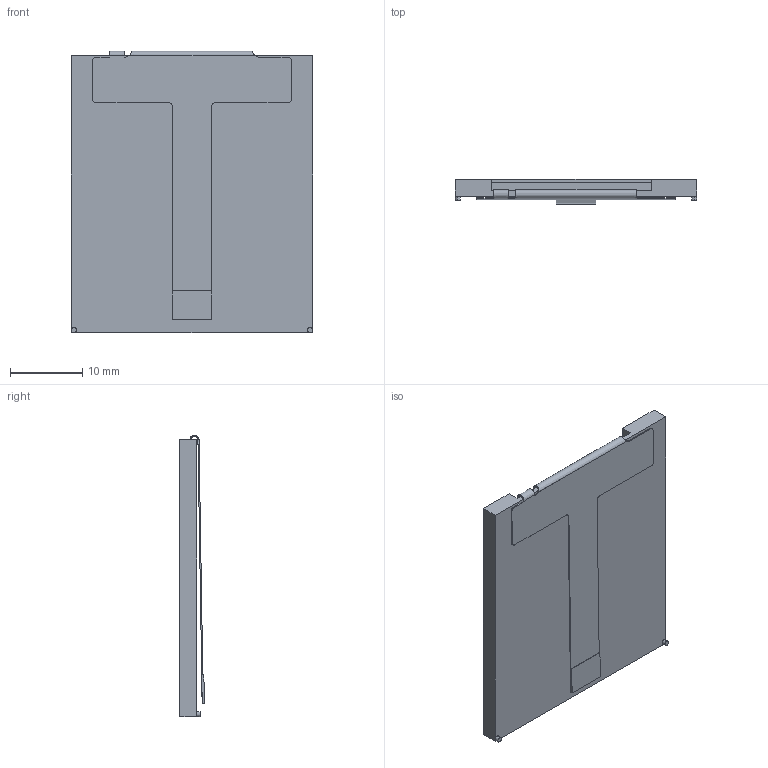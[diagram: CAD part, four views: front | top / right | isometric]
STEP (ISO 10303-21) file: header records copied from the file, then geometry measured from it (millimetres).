
FILE_DESCRIPTION (( 'STEP AP214' ), '1' );
FILE_NAME ('CFAF128128B1-0145T_Bent_Tail_Guideline.STEP', '2019-08-09T21:14:36', ( '' ), ( '' ), 'SwSTEP 2.0', 'SolidWorks 2015', '' );
FILE_SCHEMA (( 'AUTOMOTIVE_DESIGN' ));
Length unit declared in the file: millimetre
Products named in the file (1): CFAF128128B1-0145T_Bent_Tail_Guideline
Bounding box: 33.3 x 3.41 x 38.83 mm (x, y, z)
Volume: 2676.8 mm3; surface area: 3993.3 mm2
Topology: 2 solids, 2 shells, 139 faces, 377 edges, 244 vertices
Faces by surface type: plane 111, cylinder 16, cone 8, bspline 4
Entity records: 6491 total; most frequent: CARTESIAN_POINT 1755, ORIENTED_EDGE 754, DIRECTION 515, EDGE_CURVE 377, VERTEX_POINT 244, AXIS2_PLACEMENT_3D 178, B_SPLINE_CURVE_WITH_KNOTS 168, LINE 159
